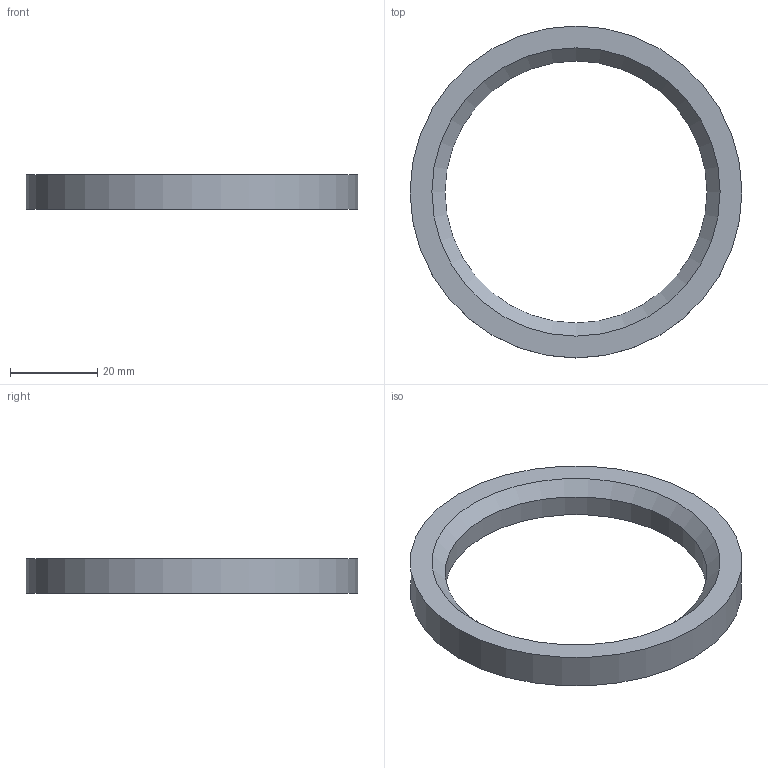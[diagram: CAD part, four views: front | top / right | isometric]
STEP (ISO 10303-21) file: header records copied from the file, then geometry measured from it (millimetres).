
FILE_DESCRIPTION(('Open CASCADE Model'),'2;1');
FILE_NAME('Open CASCADE Shape Model','2026-10-21T17:23:51',('Author'),( 'Open CASCADE'),'Open CASCADE STEP processor 7.9','Open CASCADE 7.9' ,'Unknown');
FILE_SCHEMA(('AUTOMOTIVE_DESIGN { 1 0 10303 214 1 1 1 1 }'));
Length unit declared in the file: millimetre
Products named in the file (1): Open CASCADE STEP translator 7.9 41
Bounding box: 76 x 76 x 8 mm (x, y, z)
Volume: 12795.7 mm3; surface area: 6516.6 mm2
Topology: 1 solids, 1 shells, 5 faces, 8 edges, 5 vertices
Faces by surface type: cylinder 2, plane 2, cone 1
Full cylindrical faces by diameter (mm): 60 x1, 76 x1
Entity records: 240 total; most frequent: CARTESIAN_POINT 41, DIRECTION 40, ORIENTED_EDGE 16, PCURVE 16, DEFINITIONAL_REPRESENTATION 16, LINE 15, VECTOR 15, AXIS2_PLACEMENT_3D 11
